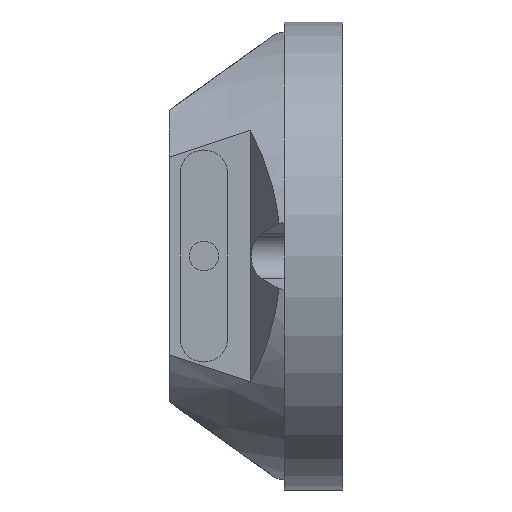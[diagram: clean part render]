
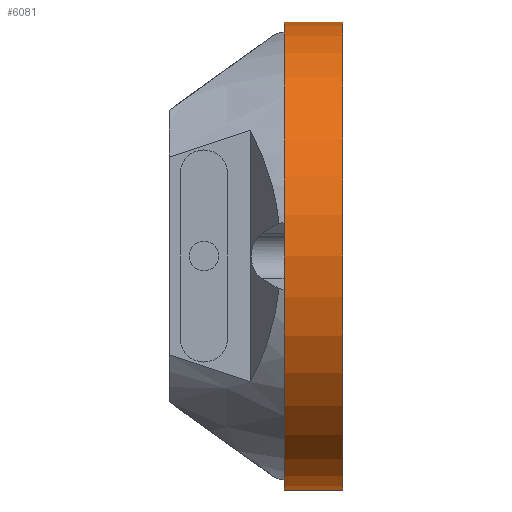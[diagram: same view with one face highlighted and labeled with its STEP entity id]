
A CAD part, left-side view. The second image highlights one B-rep face of the part: STEP entity #6081.
In plain terms, the highlighted cylindrical face has radius 100.965 mm (diameter 201.93 mm), a partial arc.
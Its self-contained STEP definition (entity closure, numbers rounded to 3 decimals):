
#574 = CARTESIAN_POINT ( 'NONE',  ( 0., 0., -100.965 ) ) ;
#655 = CARTESIAN_POINT ( 'NONE',  ( 0., 25.4, 0. ) ) ;
#1367 = EDGE_CURVE ( 'NONE', #6681, #5132, #3426, .T. ) ;
#1456 = DIRECTION ( 'NONE',  ( 0., 1., 0. ) ) ;
#1631 = EDGE_CURVE ( 'NONE', #2460, #6681, #1917, .T. ) ;
#1917 = LINE ( 'NONE', #7225, #6552 ) ;
#2126 = AXIS2_PLACEMENT_3D ( 'NONE', #3262, #1456, #7487 ) ;
#2359 = CIRCLE ( 'NONE', #5091, 100.965 ) ;
#2460 = VERTEX_POINT ( 'NONE', #4530 ) ;
#2959 = CYLINDRICAL_SURFACE ( 'NONE', #3831, 100.965 ) ;
#3101 = DIRECTION ( 'NONE',  ( 0., -1., 0. ) ) ;
#3123 = VECTOR ( 'NONE', #6104, 1000. ) ;
#3262 = CARTESIAN_POINT ( 'NONE',  ( 0., 0., 0. ) ) ;
#3312 = EDGE_LOOP ( 'NONE', ( #4607, #4684, #3670, #5497 ) ) ;
#3402 = EDGE_CURVE ( 'NONE', #5021, #2460, #2359, .T. ) ;
#3426 = CIRCLE ( 'NONE', #2126, 100.965 ) ;
#3670 = ORIENTED_EDGE ( 'NONE', *, *, #1631, .T. ) ;
#3700 = DIRECTION ( 'NONE',  ( 0., 0., -1. ) ) ;
#3831 = AXIS2_PLACEMENT_3D ( 'NONE', #5400, #4220, #4814 ) ;
#4220 = DIRECTION ( 'NONE',  ( 0., -1., 0. ) ) ;
#4422 = CARTESIAN_POINT ( 'NONE',  ( 0., 25.4, 100.965 ) ) ;
#4530 = CARTESIAN_POINT ( 'NONE',  ( 0., 25.4, -100.965 ) ) ;
#4607 = ORIENTED_EDGE ( 'NONE', *, *, #7090, .F. ) ;
#4684 = ORIENTED_EDGE ( 'NONE', *, *, #3402, .T. ) ;
#4814 = DIRECTION ( 'NONE',  ( 0., 0., -1. ) ) ;
#4960 = DIRECTION ( 'NONE',  ( 0., -1., 0. ) ) ;
#5021 = VERTEX_POINT ( 'NONE', #4422 ) ;
#5091 = AXIS2_PLACEMENT_3D ( 'NONE', #655, #3101, #3700 ) ;
#5132 = VERTEX_POINT ( 'NONE', #7534 ) ;
#5400 = CARTESIAN_POINT ( 'NONE',  ( 0., 75., 0. ) ) ;
#5497 = ORIENTED_EDGE ( 'NONE', *, *, #1367, .T. ) ;
#5709 = FACE_OUTER_BOUND ( 'NONE', #3312, .T. ) ;
#6081 = ADVANCED_FACE ( 'NONE', ( #5709 ), #2959, .T. ) ;
#6104 = DIRECTION ( 'NONE',  ( 0., -1., 0. ) ) ;
#6552 = VECTOR ( 'NONE', #4960, 1000. ) ;
#6681 = VERTEX_POINT ( 'NONE', #574 ) ;
#6899 = LINE ( 'NONE', #7330, #3123 ) ;
#7090 = EDGE_CURVE ( 'NONE', #5021, #5132, #6899, .T. ) ;
#7225 = CARTESIAN_POINT ( 'NONE',  ( 0., 75., -100.965 ) ) ;
#7330 = CARTESIAN_POINT ( 'NONE',  ( 0., 75., 100.965 ) ) ;
#7487 = DIRECTION ( 'NONE',  ( 0., 0., 1. ) ) ;
#7534 = CARTESIAN_POINT ( 'NONE',  ( 0., 0., 100.965 ) ) ;
